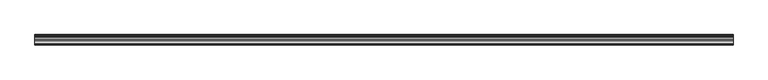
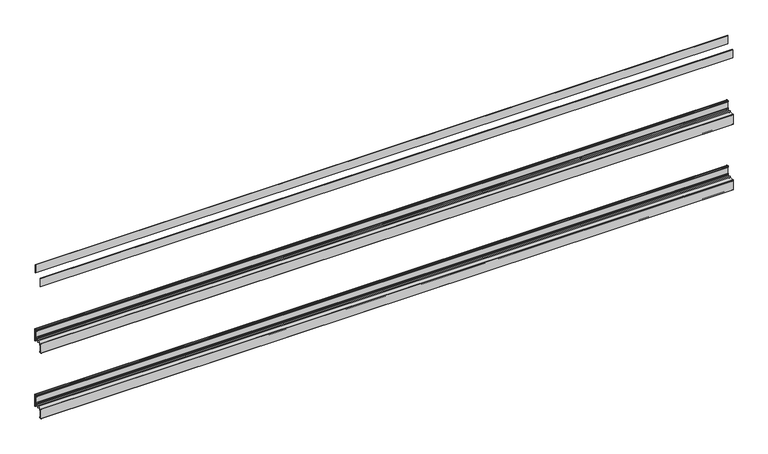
"""IFC4 building model written with IfcOpenShell, lengths in millimetres: fastener geometry."""

from ifc_helpers import new_model, si_unit, frame, origin, place, context, project, spatial, polyline, circle_curve, outline, extrude, source, transform, mapped, element, save
from ifc_brep_helpers import plane_surface, cylinder_surface, revolved_surface, advanced_brep


def fastener_300b955e(model_context):
    return source(origin(), model_context, "Body", "SolidModel", [
        extrude(outline(polyline([(2540.0, -3.556), (2540.0, -5.2832), (0.0, -5.2832), (0.0, -3.556), (2540.0, -3.556)])), frame((0.0, 0.0, 597.281), z_axis=(0.0, 0.0, 1.0), x_axis=(1.0, 0.0, 0.0)), (0.0, 0.0, 1.0), 30.988),
        extrude(outline(polyline([(2540.0, -33.7057766), (2540.0, -35.4329766), (0.0, -35.4329766), (0.0, -33.7057766), (2540.0, -33.7057766)])), frame((0.0, 0.0, 562.102), z_axis=(0.0, 0.0, 1.0), x_axis=(1.0, 0.0, 0.0)), (0.0, 0.0, 1.0), 30.988),
        advanced_brep(
        [(2540.0, -3.556, 374.269), (2540.0, -3.556, 343.281), (2540.0, -5.2832, 343.281), (2540.0, -5.2832, 347.472), (2540.0, -7.3152, 347.472), (2540.0, -7.3152, 343.281), (2540.0, -8.0772, 342.519), (2540.0, -17.7601563, 342.519), (2540.0, -17.7601563, 343.3674433), (2540.0, -20.4288947, 343.3674433), (2540.0, -20.4288947, 342.519), (2540.0, -37.3379766, 342.519), (2540.0, -38.0999766, 341.757), (2540.0, -38.1, 305.5196758), (2540.0, -37.3379766, 304.8), (2540.0, -33.7057766, 304.8), (2540.0, -31.6737766, 306.832), (2540.0, -31.6737766, 309.118), (2540.0, -33.7057766, 309.118), (2540.0, -33.7057766, 308.102), (2540.0, -35.4329766, 308.102), (2540.0, -35.4329766, 339.09), (2540.0, -33.7057766, 339.09), (2540.0, -33.7057766, 334.899), (2540.0, -31.6737766, 334.899), (2540.0, -31.6737766, 339.09), (2540.0, -30.9117766, 339.852), (2540.0, -20.4279799, 339.852), (2540.0, -20.4279799, 339.0030993), (2540.0, -17.7601563, 339.0030993), (2540.0, -17.7601563, 339.852), (2540.0, -3.429, 339.852), (2540.0, -2.667, 339.09), (2540.0, -2.667, 332.994), (2540.0, 0.0, 332.994), (2540.0, 0.0, 376.809), (2540.0, -0.762, 377.571), (2540.0, -5.2832, 377.571), (2540.0, -7.3152, 375.539), (2540.0, -7.3152, 373.253), (2540.0, -5.2832, 373.253), (2540.0, -5.2832, 374.269), (0.0, -3.556, 374.269), (0.0, -5.2832, 374.269), (0.0, -5.2832, 373.253), (0.0, -7.3152, 373.253), (0.0, -7.3152, 375.539), (0.0, -5.2832, 377.571), (0.0, -0.762, 377.571), (0.0, 0.0, 376.809), (0.0, 0.0, 332.994), (0.0, -2.667, 332.994), (0.0, -2.667, 339.09), (0.0, -3.429, 339.852), (0.0, -17.7601563, 339.852), (0.0, -17.7601563, 339.0030993), (0.0, -20.4279799, 339.0030993), (0.0, -20.4279799, 339.852), (0.0, -30.9117766, 339.852), (0.0, -31.6737766, 339.09), (0.0, -31.6737766, 334.899), (0.0, -33.7057766, 334.899), (0.0, -33.7057766, 339.09), (0.0, -35.4329766, 339.09), (0.0, -35.4329766, 308.102), (0.0, -33.7057766, 308.102), (0.0, -33.7057766, 309.118), (0.0, -31.6737766, 309.118), (0.0, -31.6737766, 306.832), (0.0, -33.7057766, 304.8), (0.0, -37.3379766, 304.8), (0.0, -38.0999766, 305.562), (0.0, -38.1, 341.6242174), (0.0, -37.3379766, 342.519), (0.0, -20.4288947, 342.519), (0.0, -20.4288947, 343.3674433), (0.0, -17.7601563, 343.3674433), (0.0, -17.7601563, 342.519), (0.0, -8.0772, 342.519), (0.0, -7.3152, 343.281), (0.0, -7.3152, 347.472), (0.0, -5.2832, 347.472), (0.0, -5.2832, 343.281), (0.0, -3.556, 343.281)],
        [
            (0, 1),
            (1, 2, circle_curve(frame((2540.0, -4.4196, 343.281), z_axis=(-1.0, 0.0, 0.0), x_axis=(0.0, 1.0, 0.0)), 0.8636)),
            (2, 3),
            (3, 4, circle_curve(frame((2540.0, -6.2992, 347.472), z_axis=(1.0, 0.0, 0.0), x_axis=(0.0, 1.0, 0.0)), 1.016)),
            (4, 5),
            (5, 6, circle_curve(frame((2540.0, -8.0772, 343.281), z_axis=(-1.0, 0.0, 0.0), x_axis=(0.0, 1.0, 0.0)), 0.762)),
            (6, 7),
            (7, 8),
            (8, 9, circle_curve(frame((2540.0, -19.0945255, 343.3674433), z_axis=(1.0, 0.0, 0.0), x_axis=(0.0, 1.0, 0.0)), 1.3343692)),
            (9, 10),
            (10, 11),
            (11, 12, circle_curve(frame((2540.0, -37.3379766, 341.757), z_axis=(1.0, 0.0, 0.0), x_axis=(0.0, 1.0, 0.0)), 0.762)),
            (12, 13),
            (13, 14, circle_curve(frame((2540.0, -37.3379766, 305.562), z_axis=(1.0, 0.0, 0.0), x_axis=(0.0, 1.0, 0.0)), 0.762)),
            (14, 15),
            (15, 16, circle_curve(frame((2540.0, -33.7057766, 306.832), z_axis=(1.0, 0.0, 0.0), x_axis=(0.0, 1.0, 0.0)), 2.032)),
            (16, 17),
            (17, 18, circle_curve(frame((2540.0, -32.6897766, 309.118), z_axis=(1.0, 0.0, 0.0), x_axis=(0.0, 1.0, 0.0)), 1.016)),
            (18, 19),
            (19, 20, circle_curve(frame((2540.0, -34.5693766, 308.102), z_axis=(-1.0, 0.0, 0.0), x_axis=(0.0, 1.0, 0.0)), 0.8636)),
            (20, 21),
            (21, 22, circle_curve(frame((2540.0, -34.5693766, 339.09), z_axis=(-1.0, 0.0, 0.0), x_axis=(0.0, 1.0, 0.0)), 0.8636)),
            (22, 23),
            (23, 24, circle_curve(frame((2540.0, -32.6897766, 334.899), z_axis=(1.0, 0.0, 0.0), x_axis=(0.0, 1.0, 0.0)), 1.016)),
            (24, 25),
            (25, 26, circle_curve(frame((2540.0, -30.9117766, 339.09), z_axis=(-1.0, 0.0, 0.0), x_axis=(0.0, 1.0, 0.0)), 0.762)),
            (26, 27),
            (27, 28),
            (28, 29, circle_curve(frame((2540.0, -19.0940681, 339.0030993), z_axis=(1.0, 0.0, 0.0), x_axis=(0.0, 1.0, 0.0)), 1.3339118)),
            (29, 30),
            (30, 31),
            (31, 32, circle_curve(frame((2540.0, -3.429, 339.09), z_axis=(-1.0, 0.0, 0.0), x_axis=(0.0, 1.0, 0.0)), 0.762)),
            (32, 33),
            (33, 34, circle_curve(frame((2540.0, -1.3335, 332.994), z_axis=(1.0, 0.0, 0.0), x_axis=(0.0, 1.0, 0.0)), 1.3335)),
            (34, 35),
            (35, 36, circle_curve(frame((2540.0, -0.762, 376.809), z_axis=(1.0, 0.0, 0.0), x_axis=(0.0, 1.0, 0.0)), 0.762)),
            (36, 37),
            (37, 38, circle_curve(frame((2540.0, -5.2832, 375.539), z_axis=(1.0, 0.0, 0.0), x_axis=(0.0, 1.0, 0.0)), 2.032)),
            (38, 39),
            (39, 40, circle_curve(frame((2540.0, -6.2992, 373.253), z_axis=(1.0, 0.0, 0.0), x_axis=(0.0, 1.0, 0.0)), 1.016)),
            (40, 41),
            (41, 0, circle_curve(frame((2540.0, -4.4196, 374.269), z_axis=(-1.0, 0.0, 0.0), x_axis=(0.0, 1.0, 0.0)), 0.8636)),
            (42, 43, circle_curve(frame((0.0, -4.4196, 374.269), z_axis=(1.0, 0.0, 0.0), x_axis=(0.0, 1.0, 0.0)), 0.8636)),
            (43, 44),
            (44, 45, circle_curve(frame((0.0, -6.2992, 373.253), z_axis=(-1.0, 0.0, 0.0), x_axis=(0.0, 1.0, 0.0)), 1.016)),
            (45, 46),
            (46, 47, circle_curve(frame((0.0, -5.2832, 375.539), z_axis=(-1.0, 0.0, 0.0), x_axis=(0.0, 1.0, 0.0)), 2.032)),
            (47, 48),
            (48, 49, circle_curve(frame((0.0, -0.762, 376.809), z_axis=(-1.0, 0.0, 0.0), x_axis=(0.0, 1.0, 0.0)), 0.762)),
            (49, 50),
            (50, 51, circle_curve(frame((0.0, -1.3335, 332.994), z_axis=(-1.0, 0.0, 0.0), x_axis=(0.0, 1.0, 0.0)), 1.3335)),
            (51, 52),
            (52, 53, circle_curve(frame((0.0, -3.429, 339.09), z_axis=(1.0, 0.0, 0.0), x_axis=(0.0, 1.0, 0.0)), 0.762)),
            (53, 54),
            (54, 55),
            (55, 56, circle_curve(frame((0.0, -19.0940681, 339.0030993), z_axis=(-1.0, 0.0, 0.0), x_axis=(0.0, 1.0, 0.0)), 1.3339118)),
            (56, 57),
            (57, 58),
            (58, 59, circle_curve(frame((0.0, -30.9117766, 339.09), z_axis=(1.0, 0.0, 0.0), x_axis=(0.0, 1.0, 0.0)), 0.762)),
            (59, 60),
            (60, 61, circle_curve(frame((0.0, -32.6897766, 334.899), z_axis=(-1.0, 0.0, 0.0), x_axis=(0.0, 1.0, 0.0)), 1.016)),
            (61, 62),
            (62, 63, circle_curve(frame((0.0, -34.5693766, 339.09), z_axis=(1.0, 0.0, 0.0), x_axis=(0.0, 1.0, 0.0)), 0.8636)),
            (63, 64),
            (64, 65, circle_curve(frame((0.0, -34.5693766, 308.102), z_axis=(1.0, 0.0, 0.0), x_axis=(0.0, 1.0, 0.0)), 0.8636)),
            (65, 66),
            (66, 67, circle_curve(frame((0.0, -32.6897766, 309.118), z_axis=(-1.0, 0.0, 0.0), x_axis=(0.0, 1.0, 0.0)), 1.016)),
            (67, 68),
            (68, 69, circle_curve(frame((0.0, -33.7057766, 306.832), z_axis=(-1.0, 0.0, 0.0), x_axis=(0.0, 1.0, 0.0)), 2.032)),
            (69, 70),
            (70, 71, circle_curve(frame((0.0, -37.3379766, 305.562), z_axis=(-1.0, 0.0, 0.0), x_axis=(0.0, 1.0, 0.0)), 0.762)),
            (71, 72),
            (72, 73, circle_curve(frame((0.0, -37.3379766, 341.757), z_axis=(-1.0, 0.0, 0.0), x_axis=(0.0, 1.0, 0.0)), 0.762)),
            (73, 74),
            (74, 75),
            (75, 76, circle_curve(frame((0.0, -19.0945255, 343.3674433), z_axis=(-1.0, 0.0, 0.0), x_axis=(0.0, 1.0, 0.0)), 1.3343692)),
            (76, 77),
            (77, 78),
            (78, 79, circle_curve(frame((0.0, -8.0772, 343.281), z_axis=(1.0, 0.0, 0.0), x_axis=(0.0, 1.0, 0.0)), 0.762)),
            (79, 80),
            (80, 81, circle_curve(frame((0.0, -6.2992, 347.472), z_axis=(-1.0, 0.0, 0.0), x_axis=(0.0, 1.0, 0.0)), 1.016)),
            (81, 82),
            (82, 83, circle_curve(frame((0.0, -4.4196, 343.281), z_axis=(1.0, 0.0, 0.0), x_axis=(0.0, 1.0, 0.0)), 0.8636)),
            (83, 42),
            (0, 42),
            (83, 1),
            (82, 2),
            (81, 3),
            (80, 4),
            (79, 5),
            (78, 6),
            (77, 7),
            (76, 8),
            (75, 9),
            (74, 10),
            (73, 11),
            (72, 12),
            (71, 13),
            (70, 14),
            (69, 15),
            (68, 16),
            (67, 17),
            (66, 18),
            (65, 19),
            (64, 20),
            (63, 21),
            (62, 22),
            (61, 23),
            (60, 24),
            (59, 25),
            (58, 26),
            (57, 27),
            (56, 28),
            (55, 29),
            (54, 30),
            (53, 31),
            (52, 32),
            (51, 33),
            (50, 34),
            (49, 35),
            (48, 36),
            (47, 37),
            (46, 38),
            (45, 39),
            (44, 40),
            (43, 41),
        ],
        [
            plane_surface(frame((2540.0, -3.556, 343.281), z_axis=(1.0, 0.0, 0.0), x_axis=(0.0, 0.0, -1.0))),
            plane_surface(frame((0.0, -3.556, 343.281), z_axis=(-1.0, 0.0, 0.0), x_axis=(0.0, 0.0, 1.0))),
            plane_surface(frame((2540.0, -3.556, 374.269), z_axis=(0.0, -1.0, 0.0), x_axis=(-1.0, 0.0, 0.0))),
            revolved_surface(polyline([(0.0, -3.556, 343.281), (2540.0, -3.556, 343.281)]), (0.0, -4.4196, 343.281), (-1.0, 0.0, 0.0)),
            plane_surface(frame((2540.0, -5.2832, 343.281), z_axis=(0.0, 1.0, 0.0), x_axis=(-1.0, 0.0, 0.0))),
            cylinder_surface(frame((0.0, -6.2992, 347.472), z_axis=(1.0, 0.0, 0.0), x_axis=(0.0, 1.0, 0.0)), 1.016),
            plane_surface(frame((2540.0, -7.3152, 347.472), z_axis=(0.0, -1.0, 0.0), x_axis=(-1.0, 0.0, 0.0))),
            revolved_surface(polyline([(0.0, -7.315199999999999, 343.281), (2540.0, -7.315199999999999, 343.281)]), (0.0, -8.0772, 343.281), (-1.0, 0.0, 0.0)),
            plane_surface(frame((2540.0, -8.0772, 342.519), z_axis=(0.0, 0.0, 1.0), x_axis=(-1.0, 0.0, 0.0))),
            plane_surface(frame((2540.0, -17.7601563, 342.519), z_axis=(0.0, 1.0, 0.0), x_axis=(-1.0, 0.0, 0.0))),
            cylinder_surface(frame((0.0, -19.0945255, 343.3674433), z_axis=(1.0, 0.0, 0.0), x_axis=(0.0, 1.0, 0.0)), 1.3343692),
            plane_surface(frame((2540.0, -20.4288947, 343.3674433), z_axis=(0.0, -1.0, 0.0), x_axis=(-1.0, 0.0, 0.0))),
            plane_surface(frame((2540.0, -20.4288947, 342.519), z_axis=(0.0, 0.0, 1.0), x_axis=(-1.0, 0.0, 0.0))),
            cylinder_surface(frame((0.0, -37.3379766, 341.757), z_axis=(1.0, 0.0, 0.0), x_axis=(0.0, 1.0, 0.0)), 0.762),
            plane_surface(frame((2540.0, -38.1, 341.6242174), z_axis=(0.0, -1.0, 0.0), x_axis=(-1.0, 0.0, 0.0))),
            cylinder_surface(frame((0.0, -37.3379766, 305.562), z_axis=(1.0, 0.0, 0.0), x_axis=(0.0, 1.0, 0.0)), 0.762),
            plane_surface(frame((2540.0, -37.3379766, 304.8), z_axis=(0.0, 1.080720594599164e-12, -1.0), x_axis=(-1.0, 0.0, 0.0))),
            cylinder_surface(frame((0.0, -33.7057766, 306.832), z_axis=(1.0, 0.0, 0.0), x_axis=(0.0, 1.0, 0.0)), 2.032),
            plane_surface(frame((2540.0, -31.6737766, 306.832), z_axis=(0.0, 1.0, 0.0), x_axis=(-1.0, 0.0, 0.0))),
            cylinder_surface(frame((0.0, -32.6897766, 309.118), z_axis=(1.0, 0.0, 0.0), x_axis=(0.0, 1.0, 0.0)), 1.016),
            plane_surface(frame((2540.0, -33.7057766, 309.118), z_axis=(0.0, -1.0, 0.0), x_axis=(-1.0, 0.0, 0.0))),
            revolved_surface(polyline([(0.0, -33.7057766, 308.102), (2540.0, -33.7057766, 308.102)]), (0.0, -34.5693766, 308.102), (-1.0, 0.0, 0.0)),
            plane_surface(frame((2540.0, -35.4329766, 308.102), z_axis=(0.0, 1.0, 0.0), x_axis=(-1.0, 0.0, 0.0))),
            revolved_surface(polyline([(0.0, -33.7057766, 339.09), (2540.0, -33.7057766, 339.09)]), (0.0, -34.5693766, 339.09), (-1.0, 0.0, 0.0)),
            plane_surface(frame((2540.0, -33.7057766, 339.09), z_axis=(0.0, -1.0, 0.0), x_axis=(-1.0, 0.0, 0.0))),
            cylinder_surface(frame((0.0, -32.6897766, 334.899), z_axis=(1.0, 0.0, 0.0), x_axis=(0.0, 1.0, 0.0)), 1.016),
            plane_surface(frame((2540.0, -31.6737766, 334.899), z_axis=(0.0, 1.0, 0.0), x_axis=(-1.0, 0.0, 0.0))),
            revolved_surface(polyline([(0.0, -30.1497766, 339.09), (2540.0, -30.1497766, 339.09)]), (0.0, -30.9117766, 339.09), (-1.0, 0.0, 0.0)),
            plane_surface(frame((2540.0, -30.9117766, 339.852), z_axis=(0.0, 0.0, -1.0), x_axis=(-1.0, 0.0, 0.0))),
            plane_surface(frame((2540.0, -20.4279799, 339.852), z_axis=(0.0, -1.0, 0.0), x_axis=(-1.0, 0.0, 0.0))),
            cylinder_surface(frame((0.0, -19.0940681, 339.0030993), z_axis=(1.0, 0.0, 0.0), x_axis=(0.0, 1.0, 0.0)), 1.3339118),
            plane_surface(frame((2540.0, -17.7601563, 339.0030993), z_axis=(0.0, 1.0, 0.0), x_axis=(-1.0, 0.0, 0.0))),
            plane_surface(frame((2540.0, -17.7601563, 339.852), z_axis=(0.0, 0.0, -1.0), x_axis=(-1.0, 0.0, 0.0))),
            revolved_surface(polyline([(0.0, -2.667, 339.09), (2540.0, -2.667, 339.09)]), (0.0, -3.429, 339.09), (-1.0, 0.0, 0.0)),
            plane_surface(frame((2540.0, -2.667, 339.09), z_axis=(0.0, -1.0, 0.0), x_axis=(-1.0, 0.0, 0.0))),
            cylinder_surface(frame((0.0, -1.3335, 332.994), z_axis=(1.0, 0.0, 0.0), x_axis=(0.0, 1.0, 0.0)), 1.3335),
            plane_surface(frame((2540.0, 0.0, 332.994), z_axis=(0.0, 1.0, 0.0), x_axis=(-1.0, 0.0, 0.0))),
            cylinder_surface(frame((0.0, -0.762, 376.809), z_axis=(1.0, 0.0, 0.0), x_axis=(0.0, 1.0, 0.0)), 0.762),
            plane_surface(frame((2540.0, -0.762, 377.571), z_axis=(0.0, 1.6915308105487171e-12, 1.0), x_axis=(-1.0, 0.0, 0.0))),
            cylinder_surface(frame((0.0, -5.2832, 375.539), z_axis=(1.0, 0.0, 0.0), x_axis=(0.0, 1.0, 0.0)), 2.032),
            plane_surface(frame((2540.0, -7.3152, 375.539), z_axis=(0.0, -1.0, 0.0), x_axis=(-1.0, 0.0, 0.0))),
            cylinder_surface(frame((0.0, -6.2992, 373.253), z_axis=(1.0, 0.0, 0.0), x_axis=(0.0, 1.0, 0.0)), 1.016),
            plane_surface(frame((2540.0, -5.2832, 373.253), z_axis=(0.0, 1.0, 0.0), x_axis=(-1.0, 0.0, 0.0))),
            revolved_surface(polyline([(0.0, -3.556, 374.269), (2540.0, -3.556, 374.269)]), (0.0, -4.4196, 374.269), (-1.0, 0.0, 0.0)),
        ],
        [
            (0, [[1, 2, 3, 4, 5, 6, 7, 8, 9, 10, 11, 12, 13, 14, 15, 16, 17, 18, 19, 20, 21, 22, 23, 24, 25, 26, 27, 28, 29, 30, 31, 32, 33, 34, 35, 36, 37, 38, 39, 40, 41, 42]]),
            (1, [[43, 44, 45, 46, 47, 48, 49, 50, 51, 52, 53, 54, 55, 56, 57, 58, 59, 60, 61, 62, 63, 64, 65, 66, 67, 68, 69, 70, 71, 72, 73, 74, 75, 76, 77, 78, 79, 80, 81, 82, 83, 84]]),
            (2, [[-1, 85, -84, 86]]),
            (3, [[-2, -86, -83, 87]]),
            (4, [[-3, -87, -82, 88]]),
            (5, [[-4, -88, -81, 89]]),
            (6, [[-5, -89, -80, 90]]),
            (7, [[-6, -90, -79, 91]]),
            (8, [[-7, -91, -78, 92]]),
            (9, [[-8, -92, -77, 93]]),
            (10, [[-9, -93, -76, 94]]),
            (11, [[-10, -94, -75, 95]]),
            (12, [[-11, -95, -74, 96]]),
            (13, [[-12, -96, -73, 97]]),
            (14, [[-13, -97, -72, 98]]),
            (15, [[-14, -98, -71, 99]]),
            (16, [[-15, -99, -70, 100]]),
            (17, [[-16, -100, -69, 101]]),
            (18, [[-17, -101, -68, 102]]),
            (19, [[-18, -102, -67, 103]]),
            (20, [[-19, -103, -66, 104]]),
            (21, [[-20, -104, -65, 105]]),
            (22, [[-21, -105, -64, 106]]),
            (23, [[-22, -106, -63, 107]]),
            (24, [[-23, -107, -62, 108]]),
            (25, [[-24, -108, -61, 109]]),
            (26, [[-25, -109, -60, 110]]),
            (27, [[-26, -110, -59, 111]]),
            (28, [[-27, -111, -58, 112]]),
            (29, [[-28, -112, -57, 113]]),
            (30, [[-29, -113, -56, 114]]),
            (31, [[-30, -114, -55, 115]]),
            (32, [[-31, -115, -54, 116]]),
            (33, [[-32, -116, -53, 117]]),
            (34, [[-33, -117, -52, 118]]),
            (35, [[-34, -118, -51, 119]]),
            (36, [[-35, -119, -50, 120]]),
            (37, [[-36, -120, -49, 121]]),
            (38, [[-37, -121, -48, 122]]),
            (39, [[-38, -122, -47, 123]]),
            (40, [[-39, -123, -46, 124]]),
            (41, [[-40, -124, -45, 125]]),
            (42, [[-41, -125, -44, 126]]),
            (43, [[-42, -126, -43, -85]]),
        ],
    ),
        extrude(outline(polyline([(2540.0, -3.556), (2540.0, -5.2832), (0.0, -5.2832), (0.0, -3.556), (2540.0, -3.556)])), frame((0.0, 0.0, 343.281), z_axis=(0.0, 0.0, 1.0), x_axis=(1.0, 0.0, 0.0)), (0.0, 0.0, 1.0), 30.988),
        extrude(outline(polyline([(2540.0, -33.7057766), (2540.0, -35.4329766), (0.0, -35.4329766), (0.0, -33.7057766), (2540.0, -33.7057766)])), frame((0.0, 0.0, 308.102), z_axis=(0.0, 0.0, 1.0), x_axis=(1.0, 0.0, 0.0)), (0.0, 0.0, 1.0), 30.988),
        advanced_brep(
        [(2540.0, -3.556, 120.269), (2540.0, -3.556, 89.281), (2540.0, -5.2832, 89.281), (2540.0, -5.2832, 93.472), (2540.0, -7.3152, 93.472), (2540.0, -7.3152, 89.281), (2540.0, -8.0772, 88.519), (2540.0, -17.7601563, 88.519), (2540.0, -17.7601563, 89.3674433), (2540.0, -20.4288947, 89.3674433), (2540.0, -20.4288947, 88.519), (2540.0, -37.3379766, 88.519), (2540.0, -38.0999766, 87.757), (2540.0, -38.1, 51.5196758), (2540.0, -37.3379766, 50.8), (2540.0, -33.7057766, 50.8), (2540.0, -31.6737766, 52.832), (2540.0, -31.6737766, 55.118), (2540.0, -33.7057766, 55.118), (2540.0, -33.7057766, 54.102), (2540.0, -35.4329766, 54.102), (2540.0, -35.4329766, 85.09), (2540.0, -33.7057766, 85.09), (2540.0, -33.7057766, 80.899), (2540.0, -31.6737766, 80.899), (2540.0, -31.6737766, 85.09), (2540.0, -30.9117766, 85.852), (2540.0, -20.4279799, 85.852), (2540.0, -20.4279799, 85.0030993), (2540.0, -17.7601563, 85.0030993), (2540.0, -17.7601563, 85.852), (2540.0, -3.429, 85.852), (2540.0, -2.667, 85.09), (2540.0, -2.667, 78.994), (2540.0, 0.0, 78.994), (2540.0, 0.0, 122.809), (2540.0, -0.762, 123.571), (2540.0, -5.2832, 123.571), (2540.0, -7.3152, 121.539), (2540.0, -7.3152, 119.253), (2540.0, -5.2832, 119.253), (2540.0, -5.2832, 120.269), (0.0, -3.556, 120.269), (0.0, -5.2832, 120.269), (0.0, -5.2832, 119.253), (0.0, -7.3152, 119.253), (0.0, -7.3152, 121.539), (0.0, -5.2832, 123.571), (0.0, -0.762, 123.571), (0.0, 0.0, 122.809), (0.0, 0.0, 78.994), (0.0, -2.667, 78.994), (0.0, -2.667, 85.09), (0.0, -3.429, 85.852), (0.0, -17.7601563, 85.852), (0.0, -17.7601563, 85.0030993), (0.0, -20.4279799, 85.0030993), (0.0, -20.4279799, 85.852), (0.0, -30.9117766, 85.852), (0.0, -31.6737766, 85.09), (0.0, -31.6737766, 80.899), (0.0, -33.7057766, 80.899), (0.0, -33.7057766, 85.09), (0.0, -35.4329766, 85.09), (0.0, -35.4329766, 54.102), (0.0, -33.7057766, 54.102), (0.0, -33.7057766, 55.118), (0.0, -31.6737766, 55.118), (0.0, -31.6737766, 52.832), (0.0, -33.7057766, 50.8), (0.0, -37.3379766, 50.8), (0.0, -38.0999766, 51.562), (0.0, -38.1, 87.6242174), (0.0, -37.3379766, 88.519), (0.0, -20.4288947, 88.519), (0.0, -20.4288947, 89.3674433), (0.0, -17.7601563, 89.3674433), (0.0, -17.7601563, 88.519), (0.0, -8.0772, 88.519), (0.0, -7.3152, 89.281), (0.0, -7.3152, 93.472), (0.0, -5.2832, 93.472), (0.0, -5.2832, 89.281), (0.0, -3.556, 89.281)],
        [
            (0, 1),
            (1, 2, circle_curve(frame((2540.0, -4.4196, 89.281), z_axis=(-1.0, 0.0, 0.0), x_axis=(0.0, 1.0, 0.0)), 0.8636)),
            (2, 3),
            (3, 4, circle_curve(frame((2540.0, -6.2992, 93.472), z_axis=(1.0, 0.0, 0.0), x_axis=(0.0, 1.0, 0.0)), 1.016)),
            (4, 5),
            (5, 6, circle_curve(frame((2540.0, -8.0772, 89.281), z_axis=(-1.0, 0.0, 0.0), x_axis=(0.0, 1.0, 0.0)), 0.762)),
            (6, 7),
            (7, 8),
            (8, 9, circle_curve(frame((2540.0, -19.0945255, 89.3674433), z_axis=(1.0, 0.0, 0.0), x_axis=(0.0, 1.0, 0.0)), 1.3343692)),
            (9, 10),
            (10, 11),
            (11, 12, circle_curve(frame((2540.0, -37.3379766, 87.757), z_axis=(1.0, 0.0, 0.0), x_axis=(0.0, 1.0, 0.0)), 0.762)),
            (12, 13),
            (13, 14, circle_curve(frame((2540.0, -37.3379766, 51.562), z_axis=(1.0, 0.0, 0.0), x_axis=(0.0, 1.0, 0.0)), 0.762)),
            (14, 15),
            (15, 16, circle_curve(frame((2540.0, -33.7057766, 52.832), z_axis=(1.0, 0.0, 0.0), x_axis=(0.0, 1.0, 0.0)), 2.032)),
            (16, 17),
            (17, 18, circle_curve(frame((2540.0, -32.6897766, 55.118), z_axis=(1.0, 0.0, 0.0), x_axis=(0.0, 1.0, 0.0)), 1.016)),
            (18, 19),
            (19, 20, circle_curve(frame((2540.0, -34.5693766, 54.102), z_axis=(-1.0, 0.0, 0.0), x_axis=(0.0, 1.0, 0.0)), 0.8636)),
            (20, 21),
            (21, 22, circle_curve(frame((2540.0, -34.5693766, 85.09), z_axis=(-1.0, 0.0, 0.0), x_axis=(0.0, 1.0, 0.0)), 0.8636)),
            (22, 23),
            (23, 24, circle_curve(frame((2540.0, -32.6897766, 80.899), z_axis=(1.0, 0.0, 0.0), x_axis=(0.0, 1.0, 0.0)), 1.016)),
            (24, 25),
            (25, 26, circle_curve(frame((2540.0, -30.9117766, 85.09), z_axis=(-1.0, 0.0, 0.0), x_axis=(0.0, 1.0, 0.0)), 0.762)),
            (26, 27),
            (27, 28),
            (28, 29, circle_curve(frame((2540.0, -19.0940681, 85.0030993), z_axis=(1.0, 0.0, 0.0), x_axis=(0.0, 1.0, 0.0)), 1.3339118)),
            (29, 30),
            (30, 31),
            (31, 32, circle_curve(frame((2540.0, -3.429, 85.09), z_axis=(-1.0, 0.0, 0.0), x_axis=(0.0, 1.0, 0.0)), 0.762)),
            (32, 33),
            (33, 34, circle_curve(frame((2540.0, -1.3335, 78.994), z_axis=(1.0, 0.0, 0.0), x_axis=(0.0, 1.0, 0.0)), 1.3335)),
            (34, 35),
            (35, 36, circle_curve(frame((2540.0, -0.762, 122.809), z_axis=(1.0, 0.0, 0.0), x_axis=(0.0, 1.0, 0.0)), 0.762)),
            (36, 37),
            (37, 38, circle_curve(frame((2540.0, -5.2832, 121.539), z_axis=(1.0, 0.0, 0.0), x_axis=(0.0, 1.0, 0.0)), 2.032)),
            (38, 39),
            (39, 40, circle_curve(frame((2540.0, -6.2992, 119.253), z_axis=(1.0, 0.0, 0.0), x_axis=(0.0, 1.0, 0.0)), 1.016)),
            (40, 41),
            (41, 0, circle_curve(frame((2540.0, -4.4196, 120.269), z_axis=(-1.0, 0.0, 0.0), x_axis=(0.0, 1.0, 0.0)), 0.8636)),
            (42, 43, circle_curve(frame((0.0, -4.4196, 120.269), z_axis=(1.0, 0.0, 0.0), x_axis=(0.0, 1.0, 0.0)), 0.8636)),
            (43, 44),
            (44, 45, circle_curve(frame((0.0, -6.2992, 119.253), z_axis=(-1.0, 0.0, 0.0), x_axis=(0.0, 1.0, 0.0)), 1.016)),
            (45, 46),
            (46, 47, circle_curve(frame((0.0, -5.2832, 121.539), z_axis=(-1.0, 0.0, 0.0), x_axis=(0.0, 1.0, 0.0)), 2.032)),
            (47, 48),
            (48, 49, circle_curve(frame((0.0, -0.762, 122.809), z_axis=(-1.0, 0.0, 0.0), x_axis=(0.0, 1.0, 0.0)), 0.762)),
            (49, 50),
            (50, 51, circle_curve(frame((0.0, -1.3335, 78.994), z_axis=(-1.0, 0.0, 0.0), x_axis=(0.0, 1.0, 0.0)), 1.3335)),
            (51, 52),
            (52, 53, circle_curve(frame((0.0, -3.429, 85.09), z_axis=(1.0, 0.0, 0.0), x_axis=(0.0, 1.0, 0.0)), 0.762)),
            (53, 54),
            (54, 55),
            (55, 56, circle_curve(frame((0.0, -19.0940681, 85.0030993), z_axis=(-1.0, 0.0, 0.0), x_axis=(0.0, 1.0, 0.0)), 1.3339118)),
            (56, 57),
            (57, 58),
            (58, 59, circle_curve(frame((0.0, -30.9117766, 85.09), z_axis=(1.0, 0.0, 0.0), x_axis=(0.0, 1.0, 0.0)), 0.762)),
            (59, 60),
            (60, 61, circle_curve(frame((0.0, -32.6897766, 80.899), z_axis=(-1.0, 0.0, 0.0), x_axis=(0.0, 1.0, 0.0)), 1.016)),
            (61, 62),
            (62, 63, circle_curve(frame((0.0, -34.5693766, 85.09), z_axis=(1.0, 0.0, 0.0), x_axis=(0.0, 1.0, 0.0)), 0.8636)),
            (63, 64),
            (64, 65, circle_curve(frame((0.0, -34.5693766, 54.102), z_axis=(1.0, 0.0, 0.0), x_axis=(0.0, 1.0, 0.0)), 0.8636)),
            (65, 66),
            (66, 67, circle_curve(frame((0.0, -32.6897766, 55.118), z_axis=(-1.0, 0.0, 0.0), x_axis=(0.0, 1.0, 0.0)), 1.016)),
            (67, 68),
            (68, 69, circle_curve(frame((0.0, -33.7057766, 52.832), z_axis=(-1.0, 0.0, 0.0), x_axis=(0.0, 1.0, 0.0)), 2.032)),
            (69, 70),
            (70, 71, circle_curve(frame((0.0, -37.3379766, 51.562), z_axis=(-1.0, 0.0, 0.0), x_axis=(0.0, 1.0, 0.0)), 0.762)),
            (71, 72),
            (72, 73, circle_curve(frame((0.0, -37.3379766, 87.757), z_axis=(-1.0, 0.0, 0.0), x_axis=(0.0, 1.0, 0.0)), 0.762)),
            (73, 74),
            (74, 75),
            (75, 76, circle_curve(frame((0.0, -19.0945255, 89.3674433), z_axis=(-1.0, 0.0, 0.0), x_axis=(0.0, 1.0, 0.0)), 1.3343692)),
            (76, 77),
            (77, 78),
            (78, 79, circle_curve(frame((0.0, -8.0772, 89.281), z_axis=(1.0, 0.0, 0.0), x_axis=(0.0, 1.0, 0.0)), 0.762)),
            (79, 80),
            (80, 81, circle_curve(frame((0.0, -6.2992, 93.472), z_axis=(-1.0, 0.0, 0.0), x_axis=(0.0, 1.0, 0.0)), 1.016)),
            (81, 82),
            (82, 83, circle_curve(frame((0.0, -4.4196, 89.281), z_axis=(1.0, 0.0, 0.0), x_axis=(0.0, 1.0, 0.0)), 0.8636)),
            (83, 42),
            (0, 42),
            (83, 1),
            (82, 2),
            (81, 3),
            (80, 4),
            (79, 5),
            (78, 6),
            (77, 7),
            (76, 8),
            (75, 9),
            (74, 10),
            (73, 11),
            (72, 12),
            (71, 13),
            (70, 14),
            (69, 15),
            (68, 16),
            (67, 17),
            (66, 18),
            (65, 19),
            (64, 20),
            (63, 21),
            (62, 22),
            (61, 23),
            (60, 24),
            (59, 25),
            (58, 26),
            (57, 27),
            (56, 28),
            (55, 29),
            (54, 30),
            (53, 31),
            (52, 32),
            (51, 33),
            (50, 34),
            (49, 35),
            (48, 36),
            (47, 37),
            (46, 38),
            (45, 39),
            (44, 40),
            (43, 41),
        ],
        [
            plane_surface(frame((2540.0, -3.556, 89.281), z_axis=(1.0, 0.0, 0.0), x_axis=(0.0, 0.0, -1.0))),
            plane_surface(frame((0.0, -3.556, 89.281), z_axis=(-1.0, 0.0, 0.0), x_axis=(0.0, 0.0, 1.0))),
            plane_surface(frame((2540.0, -3.556, 120.269), z_axis=(0.0, -1.0, 0.0), x_axis=(-1.0, 0.0, 0.0))),
            revolved_surface(polyline([(0.0, -3.556, 89.281), (2540.0, -3.556, 89.281)]), (0.0, -4.4196, 89.281), (-1.0, 0.0, 0.0)),
            plane_surface(frame((2540.0, -5.2832, 89.281), z_axis=(0.0, 1.0, 0.0), x_axis=(-1.0, 0.0, 0.0))),
            cylinder_surface(frame((0.0, -6.2992, 93.472), z_axis=(1.0, 0.0, 0.0), x_axis=(0.0, 1.0, 0.0)), 1.016),
            plane_surface(frame((2540.0, -7.3152, 93.472), z_axis=(0.0, -1.0, 0.0), x_axis=(-1.0, 0.0, 0.0))),
            revolved_surface(polyline([(0.0, -7.315199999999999, 89.281), (2540.0, -7.315199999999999, 89.281)]), (0.0, -8.0772, 89.281), (-1.0, 0.0, 0.0)),
            plane_surface(frame((2540.0, -8.0772, 88.519), z_axis=(0.0, 0.0, 1.0), x_axis=(-1.0, 0.0, 0.0))),
            plane_surface(frame((2540.0, -17.7601563, 88.519), z_axis=(0.0, 1.0, 0.0), x_axis=(-1.0, 0.0, 0.0))),
            cylinder_surface(frame((0.0, -19.0945255, 89.3674433), z_axis=(1.0, 0.0, 0.0), x_axis=(0.0, 1.0, 0.0)), 1.3343692),
            plane_surface(frame((2540.0, -20.4288947, 89.3674433), z_axis=(0.0, -1.0, 0.0), x_axis=(-1.0, 0.0, 0.0))),
            plane_surface(frame((2540.0, -20.4288947, 88.519), z_axis=(0.0, 0.0, 1.0), x_axis=(-1.0, 0.0, 0.0))),
            cylinder_surface(frame((0.0, -37.3379766, 87.757), z_axis=(1.0, 0.0, 0.0), x_axis=(0.0, 1.0, 0.0)), 0.762),
            plane_surface(frame((2540.0, -38.1, 87.6242174), z_axis=(0.0, -1.0, 0.0), x_axis=(-1.0, 0.0, 0.0))),
            cylinder_surface(frame((0.0, -37.3379766, 51.562), z_axis=(1.0, 0.0, 0.0), x_axis=(0.0, 1.0, 0.0)), 0.762),
            plane_surface(frame((2540.0, -37.3379766, 50.8), z_axis=(0.0, 1.080720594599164e-12, -1.0), x_axis=(-1.0, 0.0, 0.0))),
            cylinder_surface(frame((0.0, -33.7057766, 52.832), z_axis=(1.0, 0.0, 0.0), x_axis=(0.0, 1.0, 0.0)), 2.032),
            plane_surface(frame((2540.0, -31.6737766, 52.832), z_axis=(0.0, 1.0, 0.0), x_axis=(-1.0, 0.0, 0.0))),
            cylinder_surface(frame((0.0, -32.6897766, 55.118), z_axis=(1.0, 0.0, 0.0), x_axis=(0.0, 1.0, 0.0)), 1.016),
            plane_surface(frame((2540.0, -33.7057766, 55.118), z_axis=(0.0, -1.0, 0.0), x_axis=(-1.0, 0.0, 0.0))),
            revolved_surface(polyline([(0.0, -33.7057766, 54.102), (2540.0, -33.7057766, 54.102)]), (0.0, -34.5693766, 54.102), (-1.0, 0.0, 0.0)),
            plane_surface(frame((2540.0, -35.4329766, 54.102), z_axis=(0.0, 1.0, 0.0), x_axis=(-1.0, 0.0, 0.0))),
            revolved_surface(polyline([(0.0, -33.7057766, 85.09), (2540.0, -33.7057766, 85.09)]), (0.0, -34.5693766, 85.09), (-1.0, 0.0, 0.0)),
            plane_surface(frame((2540.0, -33.7057766, 85.09), z_axis=(0.0, -1.0, 0.0), x_axis=(-1.0, 0.0, 0.0))),
            cylinder_surface(frame((0.0, -32.6897766, 80.899), z_axis=(1.0, 0.0, 0.0), x_axis=(0.0, 1.0, 0.0)), 1.016),
            plane_surface(frame((2540.0, -31.6737766, 80.899), z_axis=(0.0, 1.0, 0.0), x_axis=(-1.0, 0.0, 0.0))),
            revolved_surface(polyline([(0.0, -30.1497766, 85.09), (2540.0, -30.1497766, 85.09)]), (0.0, -30.9117766, 85.09), (-1.0, 0.0, 0.0)),
            plane_surface(frame((2540.0, -30.9117766, 85.852), z_axis=(0.0, 0.0, -1.0), x_axis=(-1.0, 0.0, 0.0))),
            plane_surface(frame((2540.0, -20.4279799, 85.852), z_axis=(0.0, -1.0, 0.0), x_axis=(-1.0, 0.0, 0.0))),
            cylinder_surface(frame((0.0, -19.0940681, 85.0030993), z_axis=(1.0, 0.0, 0.0), x_axis=(0.0, 1.0, 0.0)), 1.3339118),
            plane_surface(frame((2540.0, -17.7601563, 85.0030993), z_axis=(0.0, 1.0, 0.0), x_axis=(-1.0, 0.0, 0.0))),
            plane_surface(frame((2540.0, -17.7601563, 85.852), z_axis=(0.0, 0.0, -1.0), x_axis=(-1.0, 0.0, 0.0))),
            revolved_surface(polyline([(0.0, -2.667, 85.09), (2540.0, -2.667, 85.09)]), (0.0, -3.429, 85.09), (-1.0, 0.0, 0.0)),
            plane_surface(frame((2540.0, -2.667, 85.09), z_axis=(0.0, -1.0, 0.0), x_axis=(-1.0, 0.0, 0.0))),
            cylinder_surface(frame((0.0, -1.3335, 78.994), z_axis=(1.0, 0.0, 0.0), x_axis=(0.0, 1.0, 0.0)), 1.3335),
            plane_surface(frame((2540.0, 0.0, 78.994), z_axis=(0.0, 1.0, 0.0), x_axis=(-1.0, 0.0, 0.0))),
            cylinder_surface(frame((0.0, -0.762, 122.809), z_axis=(1.0, 0.0, 0.0), x_axis=(0.0, 1.0, 0.0)), 0.762),
            plane_surface(frame((2540.0, -0.762, 123.571), z_axis=(0.0, 1.6915308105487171e-12, 1.0), x_axis=(-1.0, 0.0, 0.0))),
            cylinder_surface(frame((0.0, -5.2832, 121.539), z_axis=(1.0, 0.0, 0.0), x_axis=(0.0, 1.0, 0.0)), 2.032),
            plane_surface(frame((2540.0, -7.3152, 121.539), z_axis=(0.0, -1.0, 0.0), x_axis=(-1.0, 0.0, 0.0))),
            cylinder_surface(frame((0.0, -6.2992, 119.253), z_axis=(1.0, 0.0, 0.0), x_axis=(0.0, 1.0, 0.0)), 1.016),
            plane_surface(frame((2540.0, -5.2832, 119.253), z_axis=(0.0, 1.0, 0.0), x_axis=(-1.0, 0.0, 0.0))),
            revolved_surface(polyline([(0.0, -3.556, 120.269), (2540.0, -3.556, 120.269)]), (0.0, -4.4196, 120.269), (-1.0, 0.0, 0.0)),
        ],
        [
            (0, [[1, 2, 3, 4, 5, 6, 7, 8, 9, 10, 11, 12, 13, 14, 15, 16, 17, 18, 19, 20, 21, 22, 23, 24, 25, 26, 27, 28, 29, 30, 31, 32, 33, 34, 35, 36, 37, 38, 39, 40, 41, 42]]),
            (1, [[43, 44, 45, 46, 47, 48, 49, 50, 51, 52, 53, 54, 55, 56, 57, 58, 59, 60, 61, 62, 63, 64, 65, 66, 67, 68, 69, 70, 71, 72, 73, 74, 75, 76, 77, 78, 79, 80, 81, 82, 83, 84]]),
            (2, [[-1, 85, -84, 86]]),
            (3, [[-2, -86, -83, 87]]),
            (4, [[-3, -87, -82, 88]]),
            (5, [[-4, -88, -81, 89]]),
            (6, [[-5, -89, -80, 90]]),
            (7, [[-6, -90, -79, 91]]),
            (8, [[-7, -91, -78, 92]]),
            (9, [[-8, -92, -77, 93]]),
            (10, [[-9, -93, -76, 94]]),
            (11, [[-10, -94, -75, 95]]),
            (12, [[-11, -95, -74, 96]]),
            (13, [[-12, -96, -73, 97]]),
            (14, [[-13, -97, -72, 98]]),
            (15, [[-14, -98, -71, 99]]),
            (16, [[-15, -99, -70, 100]]),
            (17, [[-16, -100, -69, 101]]),
            (18, [[-17, -101, -68, 102]]),
            (19, [[-18, -102, -67, 103]]),
            (20, [[-19, -103, -66, 104]]),
            (21, [[-20, -104, -65, 105]]),
            (22, [[-21, -105, -64, 106]]),
            (23, [[-22, -106, -63, 107]]),
            (24, [[-23, -107, -62, 108]]),
            (25, [[-24, -108, -61, 109]]),
            (26, [[-25, -109, -60, 110]]),
            (27, [[-26, -110, -59, 111]]),
            (28, [[-27, -111, -58, 112]]),
            (29, [[-28, -112, -57, 113]]),
            (30, [[-29, -113, -56, 114]]),
            (31, [[-30, -114, -55, 115]]),
            (32, [[-31, -115, -54, 116]]),
            (33, [[-32, -116, -53, 117]]),
            (34, [[-33, -117, -52, 118]]),
            (35, [[-34, -118, -51, 119]]),
            (36, [[-35, -119, -50, 120]]),
            (37, [[-36, -120, -49, 121]]),
            (38, [[-37, -121, -48, 122]]),
            (39, [[-38, -122, -47, 123]]),
            (40, [[-39, -123, -46, 124]]),
            (41, [[-40, -124, -45, 125]]),
            (42, [[-41, -125, -44, 126]]),
            (43, [[-42, -126, -43, -85]]),
        ],
    ),
        extrude(outline(polyline([(2540.0, -3.556), (2540.0, -5.2832), (0.0, -5.2832), (0.0, -3.556), (2540.0, -3.556)])), frame((0.0, 0.0, 89.281), z_axis=(0.0, 0.0, 1.0), x_axis=(1.0, 0.0, 0.0)), (0.0, 0.0, 1.0), 30.988),
        extrude(outline(polyline([(2540.0, -33.7057766), (2540.0, -35.4329766), (0.0, -35.4329766), (0.0, -33.7057766), (2540.0, -33.7057766)])), frame((0.0, 0.0, 54.102), z_axis=(0.0, 0.0, 1.0), x_axis=(1.0, 0.0, 0.0)), (0.0, 0.0, 1.0), 30.988),
    ])


if __name__ == "__main__":
    model = new_model("IFC4")
    model_context = context("Model", 3, world=origin())
    ifc_project = project(units=[si_unit("LENGTHUNIT", "METRE", prefix="MILLI")], contexts=[model_context])
    site = spatial("IfcSite", under=ifc_project)
    building = spatial("IfcBuilding", under=site)
    placement = place(None, origin())
    fastener_shape = fastener_300b955e(model_context)
    element("IfcFastener", 1, ObjectType="Structural-Supporting-Components_Advanced-Architectural-Products_SMARTci_(On Closed Framing) : SMARTci (On Closed Framing) 1.5\"", at=placement, inside=building, context=model_context, shape_type="MappedRepresentation", body=[
        mapped(fastener_shape, transform((0.0, 0.0, 0.0), x_axis=(1.0, 0.0, 0.0), y_axis=(0.0, 1.0, 0.0), z_axis=(0.0, 0.0, 1.0))),
    ])
    save(model, "model.ifc")
